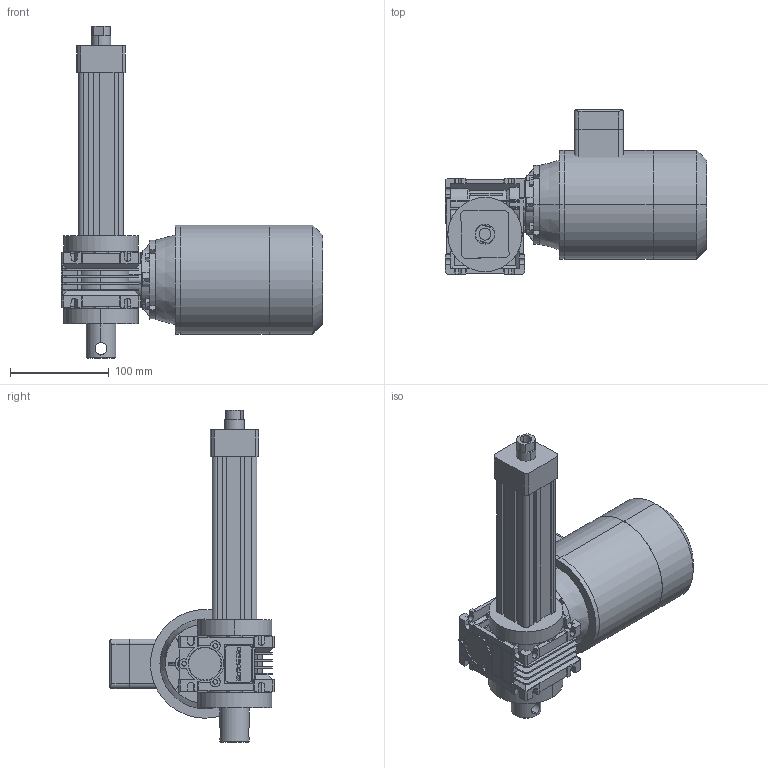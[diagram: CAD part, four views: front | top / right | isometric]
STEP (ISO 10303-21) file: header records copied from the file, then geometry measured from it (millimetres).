
FILE_DESCRIPTION (( 'STEP AP214' ), '1' );
FILE_NAME ('Ass RV32 TR C100.STEP', '2016-11-20T06:12:55', ( 'Hubert' ), ( '' ), 'SwSTEP 2.0', 'SolidWorks 2014', '' );
FILE_SCHEMA (( 'AUTOMOTIVE_DESIGN' ));
Length unit declared in the file: millimetre
Products named in the file (15): Ass RV32 TR C100; PAAV 32 dif; Tube RV32 TR C100; Profile RV32 TR C100; Vis RV32 TR C100; PAAR RV32 dif; Chape AR RV 32; NMRV030 B14 mot T56; _05610; _0561B14; _0560; _30-56 B14_2; _VB 030-09 (9)_2; _030-14 (63)_3; _Gear unit 30_3
Assembly tree (14 placements, depth 3):
  Ass RV32 TR C100
    NMRV030 B14 mot T56
      _Gear unit 30_3
      _030-14 (63)_3
      _VB 030-09 (9)_2
      _30-56 B14_2
      _0560
      _0561B14
      _05610
    Chape AR RV 32
    PAAR RV32 dif
    Vis RV32 TR C100
    Profile RV32 TR C100
    Tube RV32 TR C100
    PAAV 32 dif
Bounding box: 264 x 166 x 335.5 mm (x, y, z)
Volume: 2492266.2 mm3; surface area: 362248.2 mm2
Topology: 13 solids, 20 shells, 1075 faces, 2839 edges, 1841 vertices
Faces by surface type: plane 687, cylinder 308, cone 80
Entity records: 44680 total; most frequent: CARTESIAN_POINT 6407, ORIENTED_EDGE 5646, DIRECTION 5639, EDGE_CURVE 2823, VECTOR 1973, LINE 1973, VERTEX_POINT 1841, AXIS2_PLACEMENT_3D 1833
